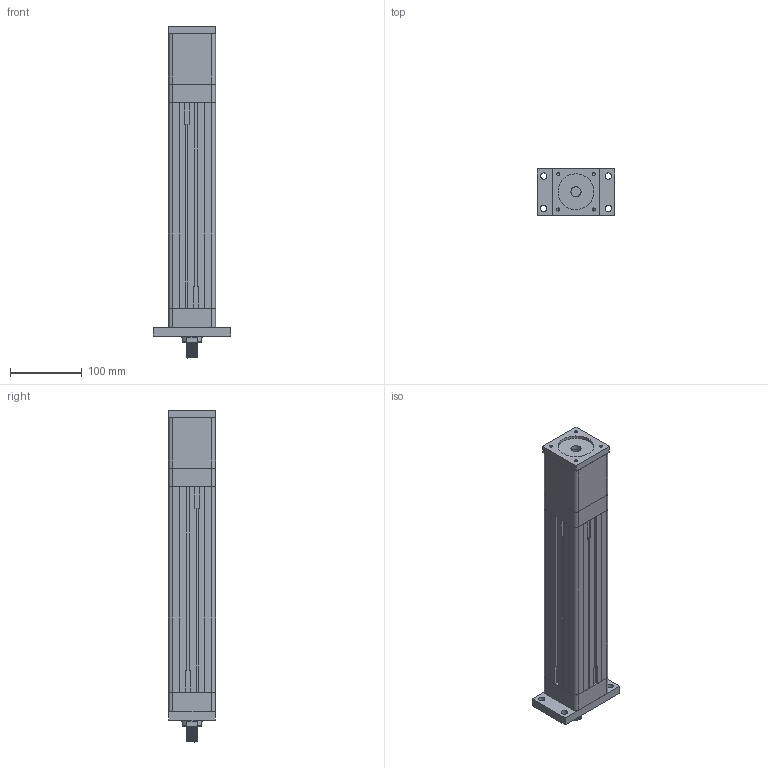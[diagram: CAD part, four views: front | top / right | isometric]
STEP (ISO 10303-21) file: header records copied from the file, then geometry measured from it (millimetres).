
FILE_DESCRIPTION( ('This file contains a STEP AP42 implementation' ,'as created by ZW3D STEP Interface translator.') ,'2;1' );
FILE_NAME( 'BF256908-6352-A823-D5CB-544EE4B77705.stp' ,'17 225.10 030', (''), ('ZWCAD Software Co.'), 'Version 1.0', 'ZW3D to STEP translator', '' );
FILE_SCHEMA( ('CONFIG_CONTROL_DESIGN') );
Length unit declared in the file: millimetre
Products named in the file (3): 0; TED-50-D-F; F-50
Assembly tree (1 placements, depth 2):
  0
  TED-50-D-F
    F-50
Bounding box: 108 x 65.5 x 462.5 mm (x, y, z)
Volume: 1789590 mm3; surface area: 239372.9 mm2
Topology: 22 solids, 22 shells, 383 faces, 934 edges, 617 vertices
Faces by surface type: bspline 383
Entity records: 13932 total; most frequent: CARTESIAN_POINT 7757, ORIENTED_EDGE 1852, EDGE_CURVE 926, B_SPLINE_CURVE_WITH_KNOTS 709, VERTEX_POINT 617, EDGE_LOOP 465, FACE_OUTER_BOUND 383, ADVANCED_FACE 383
